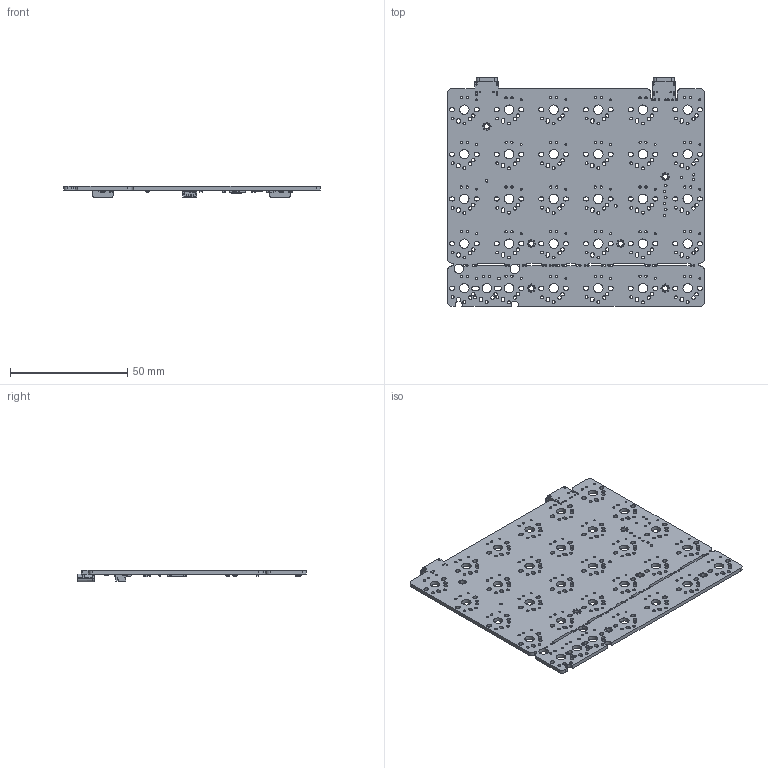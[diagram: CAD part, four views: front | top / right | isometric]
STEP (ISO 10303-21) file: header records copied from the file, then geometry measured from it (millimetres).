
FILE_DESCRIPTION(('KiCad electronic assembly'),'2;1');
FILE_NAME('nyquist-right.step','2020-12-03T16:51:07',('Pcbnew'),('Kicad' ),'Open CASCADE STEP processor 7.4','KiCad to STEP converter', 'Unknown');
FILE_SCHEMA(('AUTOMOTIVE_DESIGN { 1 0 10303 214 1 1 1 1 }'));
Length unit declared in the file: millimetre
Products named in the file (24): Open CASCADE STEP translator 7.4 1; R_0805_2012Metric; SOLID; QFN-44-1EP_7x7mm_P0.5mm_EP5.2x5.2mm; HRO__TYPE-C-31-M-12; SOT-23; C_0603_1608Metric; D_SOD-123F; Crystal_SMD_3225-4Pin_3.2x2.5mm; SW_SPST_TL3342; SOT-363_SC-70-6; SM04B-SRSS-TB; R_0603_1608Metric; COMPOUND
Assembly tree (44 placements, depth 3):
  Open CASCADE STEP translator 7.4 1
    R_0805_2012Metric
      SOLID
    QFN-44-1EP_7x7mm_P0.5mm_EP5.2x5.2mm
      SOLID
    HRO__TYPE-C-31-M-12  x2
      SOLID
    SOT-23
      SOLID
    C_0603_1608Metric  x13
      SOLID
    D_SOD-123F
      SOLID
    Crystal_SMD_3225-4Pin_3.2x2.5mm
      SOLID
    SW_SPST_TL3342
      SOLID
    SOT-363_SC-70-6  x8
      SOLID
    SM04B-SRSS-TB
      SOLID
    R_0603_1608Metric  x2
      SOLID
    COMPOUND
Bounding box: 109.54 x 97.63 x 4.86 mm (x, y, z)
Volume: 15024.7 mm3; surface area: 23997.4 mm2
Topology: 33 solids, 34 shells, 3135 faces, 8431 edges, 5415 vertices
Faces by surface type: bspline 2349, cylinder 738, plane 48
Full cylindrical faces by diameter (mm): 0.4 x48, 0.65 x4, 0.787 x30, 0.8 x29, 0.986 x2, 0.988 x1, 0.991 x62, 1 x6, 1.092 x2, 1.2 x63, 1.47 x62, 2.2 x6, 3.988 x32
Entity records: 131968 total; most frequent: CARTESIAN_POINT 44465, ORIENTED_EDGE 10226, PCURVE 10226, DEFINITIONAL_REPRESENTATION 10226, DIRECTION 8294, B_SPLINE_CURVE_WITH_KNOTS 8131, EDGE_CURVE 5113, SURFACE_CURVE 4759
